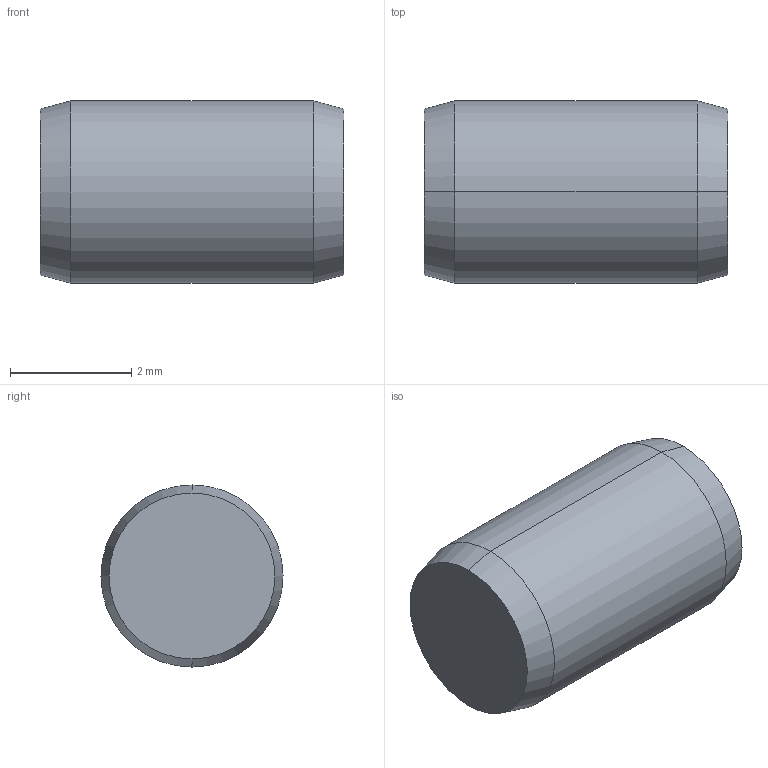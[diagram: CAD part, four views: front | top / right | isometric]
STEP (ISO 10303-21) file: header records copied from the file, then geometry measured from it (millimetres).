
FILE_DESCRIPTION (( 'STEP AP203' ), '1' );
FILE_NAME ('P1206.030-005 .step', '2017-06-14T08:02:39', ( 'User' ), ( '' ), 'SwSTEP 2.0', 'SolidWorks 2009', '' );
FILE_SCHEMA (( 'CONFIG_CONTROL_DESIGN' ));
Length unit declared in the file: millimetre
Products named in the file (1): P1206.030-005 
Bounding box: 5 x 3 x 3 mm (x, y, z)
Volume: 34.7 mm3; surface area: 58.7 mm2
Topology: 1 solids, 1 shells, 8 faces, 14 edges, 8 vertices
Faces by surface type: cone 4, cylinder 2, plane 2
Entity records: 271 total; most frequent: DIRECTION 40, CARTESIAN_POINT 31, ORIENTED_EDGE 28, AXIS2_PLACEMENT_3D 17, EDGE_CURVE 14, FACE_OUTER_BOUND 8, CIRCLE 8, EDGE_LOOP 8
